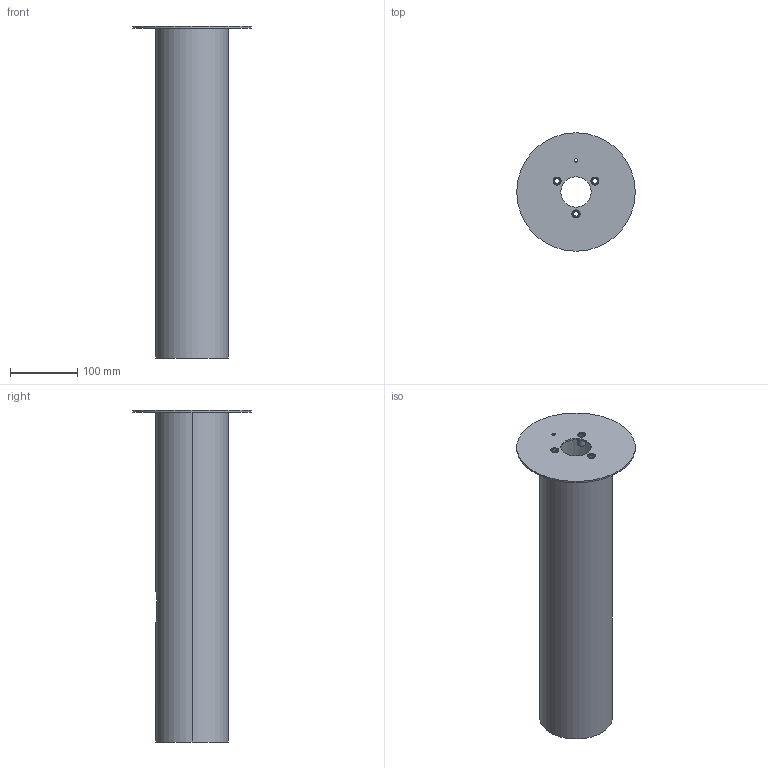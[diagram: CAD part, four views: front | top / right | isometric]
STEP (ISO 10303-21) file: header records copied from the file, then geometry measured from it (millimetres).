
FILE_DESCRIPTION (( 'STEP AP203' ), '1' );
FILE_NAME ('6132.STEP', '2020-07-09T12:17:33', ( '' ), ( '' ), 'SwSTEP 2.0', 'SolidWorks 2019', '' );
FILE_SCHEMA (( 'CONFIG_CONTROL_DESIGN' ));
Length unit declared in the file: millimetre
Products named in the file (4): NN Z FAZ･ M8_rs_3,0; 6132; Bl.podstawy_art. 6132; 6133; Podstawa spawana_Podst 206S_490
Assembly tree (5 placements, depth 2):
  6132
    Podstawa spawana_Podst 206S_490
    NN Z FAZ･ M8_rs_3,0  x3
    Bl.podstawy_art. 6132; 6133
Bounding box: 176 x 176 x 493 mm (x, y, z)
Volume: 618179.6 mm3; surface area: 372781.1 mm2
Topology: 5 solids, 5 shells, 115 faces, 243 edges, 144 vertices
Faces by surface type: cylinder 49, cone 30, plane 18, torus 18
Entity records: 2247 total; most frequent: CARTESIAN_POINT 466, DIRECTION 315, ORIENTED_EDGE 246, AXIS2_PLACEMENT_3D 135, EDGE_CURVE 123, VERTEX_POINT 76, EDGE_LOOP 73, CIRCLE 72
